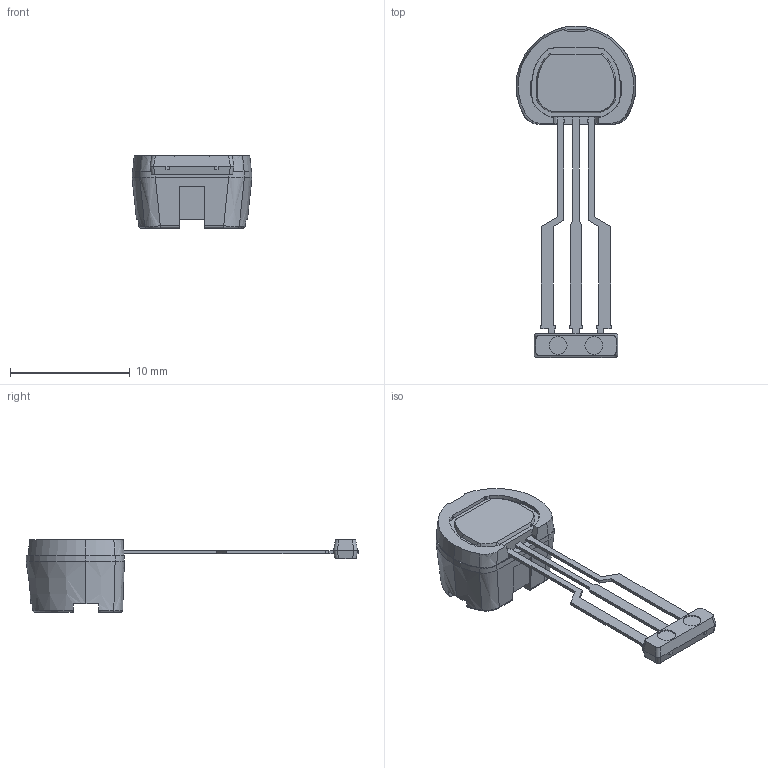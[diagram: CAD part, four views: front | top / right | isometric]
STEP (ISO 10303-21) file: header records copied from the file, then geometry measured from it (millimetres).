
FILE_DESCRIPTION (( 'STEP AP214' ), '1' );
FILE_NAME ('SL 10mm.STEP', '2017-01-31T16:37:38', ( '' ), ( '' ), 'SwSTEP 2.0', 'SolidWorks 2015', '' );
FILE_SCHEMA (( 'AUTOMOTIVE_DESIGN' ));
Length unit declared in the file: millimetre
Products named in the file (2): SL 10mm silicone; SL 10mm
Assembly tree (1 placements, depth 2):
  SL 10mm
    SL 10mm silicone
Bounding box: 10 x 27.68 x 6.05 mm (x, y, z)
Volume: 343.1 mm3; surface area: 527.8 mm2
Topology: 1 solids, 1 shells, 242 faces, 659 edges, 428 vertices
Faces by surface type: plane 147, cylinder 48, bspline 24, cone 19, torus 4
Entity records: 8033 total; most frequent: CARTESIAN_POINT 2177, ORIENTED_EDGE 1318, DIRECTION 1061, EDGE_CURVE 659, VERTEX_POINT 428, LINE 421, VECTOR 421, AXIS2_PLACEMENT_3D 320
